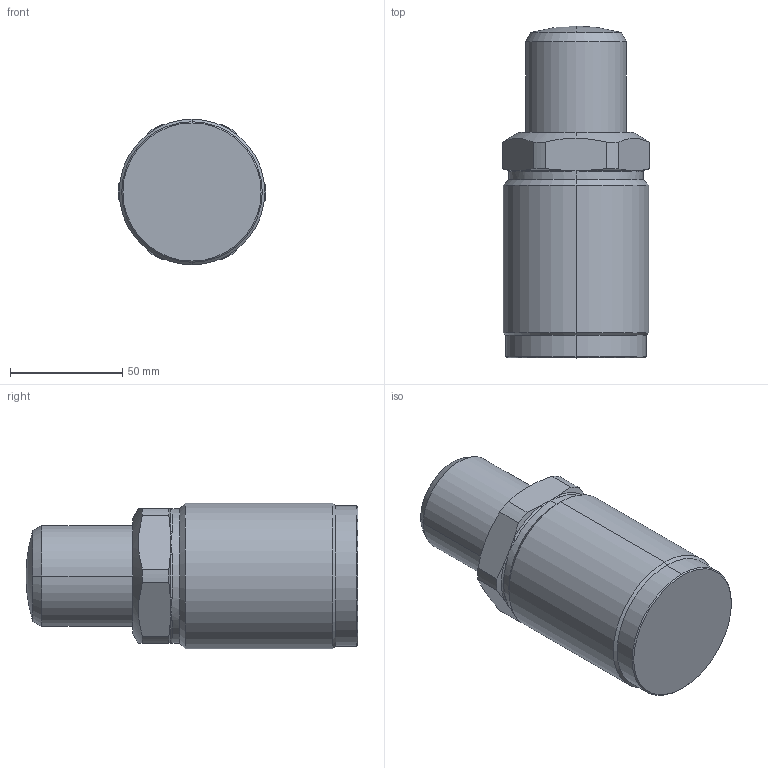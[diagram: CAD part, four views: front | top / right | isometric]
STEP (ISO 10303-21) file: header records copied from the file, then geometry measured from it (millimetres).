
FILE_DESCRIPTION((' '),'2;1');
FILE_NAME( 'CMC40-40R.x_t.stp', '2024-08-27T13:58:41', (' '), ('--- Datakit www.datakit.com---'), ' Datakit CrossCadWare V2024.1 Dec 21 2023', 'Mastercam 2025', ' ');
FILE_SCHEMA(('AUTOMOTIVE_DESIGN { 1 0 10303 214 1 1 1 1 }'));
Length unit declared in the file: millimetre
Products named in the file (1): CMC40-40R
Bounding box: 65.97 x 148 x 65 mm (x, y, z)
Volume: 330925 mm3; surface area: 41280 mm2
Topology: 2 solids, 2 shells, 62 faces, 155 edges, 84 vertices
Faces by surface type: cylinder 16, cone 16, bspline 12, plane 10, torus 6, sphere 2
Entity records: 3657 total; most frequent: CARTESIAN_POINT 2296, ORIENTED_EDGE 282, DIRECTION 264, EDGE_CURVE 141, AXIS2_PLACEMENT_3D 116, VERTEX_POINT 84, CIRCLE 65, EDGE_LOOP 63
